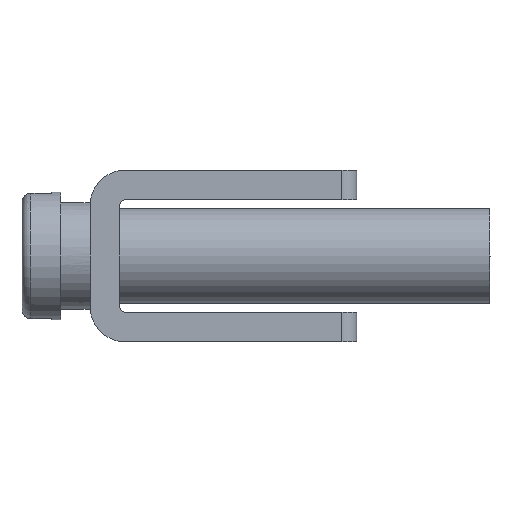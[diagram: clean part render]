
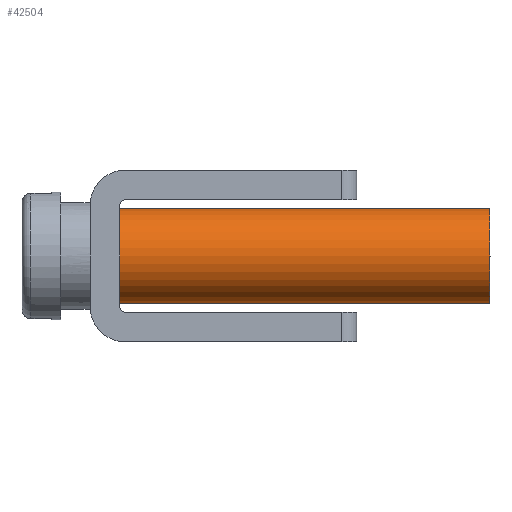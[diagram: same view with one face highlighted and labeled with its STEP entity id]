
A CAD part, left-side view. The second image highlights one B-rep face of the part: STEP entity #42504.
In plain terms, the highlighted cylindrical face has radius 1.6 mm (diameter 3.2 mm), a full revolution.
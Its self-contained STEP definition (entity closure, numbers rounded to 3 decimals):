
#42504 = ADVANCED_FACE('',(#42505),#42520,.T.);
#42505 = FACE_BOUND('',#42506,.T.);
#42506 = EDGE_LOOP('',(#42507,#42530,#42552,#42566,#42567));
#42507 = ORIENTED_EDGE('',*,*,#42508,.F.);
#42508 = EDGE_CURVE('',#42509,#42511,#42513,.T.);
#42509 = VERTEX_POINT('',#42510);
#42510 = CARTESIAN_POINT('',(-35.3,-6.,-2.35));
#42511 = VERTEX_POINT('',#42512);
#42512 = CARTESIAN_POINT('',(-35.3,-6.,-5.55));
#42513 = SURFACE_CURVE('',#42514,(#42519),.PCURVE_S1.);
#42514 = CIRCLE('',#42515,1.6);
#42515 = AXIS2_PLACEMENT_3D('',#42516,#42517,#42518);
#42516 = CARTESIAN_POINT('',(-35.3,-6.,-3.95));
#42517 = DIRECTION('',(0.,1.,0.));
#42518 = DIRECTION('',(0.,0.,-1.));
#42519 = PCURVE('',#42520,#42525);
#42520 = CYLINDRICAL_SURFACE('',#42521,1.6);
#42521 = AXIS2_PLACEMENT_3D('',#42522,#42523,#42524);
#42522 = CARTESIAN_POINT('',(-35.3,-18.5,-3.95));
#42523 = DIRECTION('',(0.,1.,0.));
#42524 = DIRECTION('',(0.,0.,1.));
#42525 = DEFINITIONAL_REPRESENTATION('',(#42526),#42529);
#42526 = B_SPLINE_CURVE_WITH_KNOTS('',1,(#42527,#42528),.UNSPECIFIED.,
  .F.,.F.,(2,2),(0.,6.283),.PIECEWISE_BEZIER_KNOTS.);
#42527 = CARTESIAN_POINT('',(-3.142,12.5));
#42528 = CARTESIAN_POINT('',(3.142,12.5));
#42529 = ( GEOMETRIC_REPRESENTATION_CONTEXT(2) 
PARAMETRIC_REPRESENTATION_CONTEXT() REPRESENTATION_CONTEXT('2D SPACE',''
  ) );
#42530 = ORIENTED_EDGE('',*,*,#42531,.F.);
#42531 = EDGE_CURVE('',#42532,#42509,#42534,.T.);
#42532 = VERTEX_POINT('',#42533);
#42533 = CARTESIAN_POINT('',(-35.3,-18.5,-2.35));
#42534 = SEAM_CURVE('',#42535,(#42538,#42545),.PCURVE_S1.);
#42535 = B_SPLINE_CURVE_WITH_KNOTS('',1,(#42536,#42537),.UNSPECIFIED.,
  .F.,.F.,(2,2),(0.,12.5),.PIECEWISE_BEZIER_KNOTS.);
#42536 = CARTESIAN_POINT('',(-35.3,-18.5,-2.35));
#42537 = CARTESIAN_POINT('',(-35.3,-6.,-2.35));
#42538 = PCURVE('',#42520,#42539);
#42539 = DEFINITIONAL_REPRESENTATION('',(#42540),#42544);
#42540 = LINE('',#42541,#42542);
#42541 = CARTESIAN_POINT('',(0.,0.));
#42542 = VECTOR('',#42543,1.);
#42543 = DIRECTION('',(0.,1.));
#42544 = ( GEOMETRIC_REPRESENTATION_CONTEXT(2) 
PARAMETRIC_REPRESENTATION_CONTEXT() REPRESENTATION_CONTEXT('2D SPACE',''
  ) );
#42545 = PCURVE('',#42520,#42546);
#42546 = DEFINITIONAL_REPRESENTATION('',(#42547),#42551);
#42547 = LINE('',#42548,#42549);
#42548 = CARTESIAN_POINT('',(6.283,0.));
#42549 = VECTOR('',#42550,1.);
#42550 = DIRECTION('',(0.,1.));
#42551 = ( GEOMETRIC_REPRESENTATION_CONTEXT(2) 
PARAMETRIC_REPRESENTATION_CONTEXT() REPRESENTATION_CONTEXT('2D SPACE',''
  ) );
#42552 = ORIENTED_EDGE('',*,*,#42553,.F.);
#42553 = EDGE_CURVE('',#42532,#42532,#42554,.T.);
#42554 = SURFACE_CURVE('',#42555,(#42560),.PCURVE_S1.);
#42555 = CIRCLE('',#42556,1.6);
#42556 = AXIS2_PLACEMENT_3D('',#42557,#42558,#42559);
#42557 = CARTESIAN_POINT('',(-35.3,-18.5,-3.95));
#42558 = DIRECTION('',(0.,-1.,0.));
#42559 = DIRECTION('',(0.,0.,1.));
#42560 = PCURVE('',#42520,#42561);
#42561 = DEFINITIONAL_REPRESENTATION('',(#42562),#42565);
#42562 = B_SPLINE_CURVE_WITH_KNOTS('',1,(#42563,#42564),.UNSPECIFIED.,
  .F.,.F.,(2,2),(0.,6.283),.PIECEWISE_BEZIER_KNOTS.);
#42563 = CARTESIAN_POINT('',(6.283,0.));
#42564 = CARTESIAN_POINT('',(0.,0.));
#42565 = ( GEOMETRIC_REPRESENTATION_CONTEXT(2) 
PARAMETRIC_REPRESENTATION_CONTEXT() REPRESENTATION_CONTEXT('2D SPACE',''
  ) );
#42566 = ORIENTED_EDGE('',*,*,#42531,.T.);
#42567 = ORIENTED_EDGE('',*,*,#42568,.F.);
#42568 = EDGE_CURVE('',#42511,#42509,#42569,.T.);
#42569 = SURFACE_CURVE('',#42570,(#42575),.PCURVE_S1.);
#42570 = CIRCLE('',#42571,1.6);
#42571 = AXIS2_PLACEMENT_3D('',#42572,#42573,#42574);
#42572 = CARTESIAN_POINT('',(-35.3,-6.,-3.95));
#42573 = DIRECTION('',(0.,1.,0.));
#42574 = DIRECTION('',(0.,0.,-1.));
#42575 = PCURVE('',#42520,#42576);
#42576 = DEFINITIONAL_REPRESENTATION('',(#42577),#42580);
#42577 = B_SPLINE_CURVE_WITH_KNOTS('',1,(#42578,#42579),.UNSPECIFIED.,
  .F.,.F.,(2,2),(0.,6.283),.PIECEWISE_BEZIER_KNOTS.);
#42578 = CARTESIAN_POINT('',(3.142,12.5));
#42579 = CARTESIAN_POINT('',(9.425,12.5));
#42580 = ( GEOMETRIC_REPRESENTATION_CONTEXT(2) 
PARAMETRIC_REPRESENTATION_CONTEXT() REPRESENTATION_CONTEXT('2D SPACE',''
  ) );
